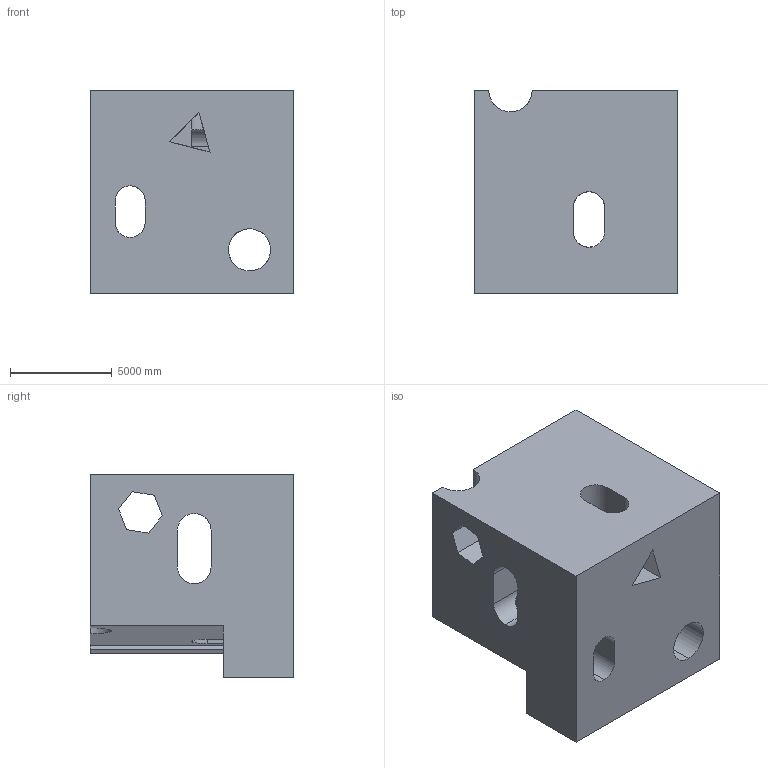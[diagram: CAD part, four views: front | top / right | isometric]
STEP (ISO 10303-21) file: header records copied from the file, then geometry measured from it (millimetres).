
FILE_DESCRIPTION (( 'STEP AP203' ), '1' );
FILE_NAME ('1702.STEP', '2022-08-19T11:52:16', ( 'user' ), ( '' ), 'SwSTEP 2.0', 'SolidWorks 2021', '' );
FILE_SCHEMA (( 'CONFIG_CONTROL_DESIGN' ));
Length unit declared in the file: centimetre
Products named in the file (1): 1702
Bounding box: 10000 x 10000 x 10000 mm (x, y, z)
Volume: 687910866210.1 mm3; surface area: 855986841.6 mm2
Topology: 1 solids, 1 shells, 41 faces, 132 edges, 88 vertices
Faces by surface type: plane 28, cylinder 13
Entity records: 2470 total; most frequent: CARTESIAN_POINT 1207, ORIENTED_EDGE 264, DIRECTION 225, EDGE_CURVE 132, VECTOR 95, LINE 95, VERTEX_POINT 88, AXIS2_PLACEMENT_3D 65
